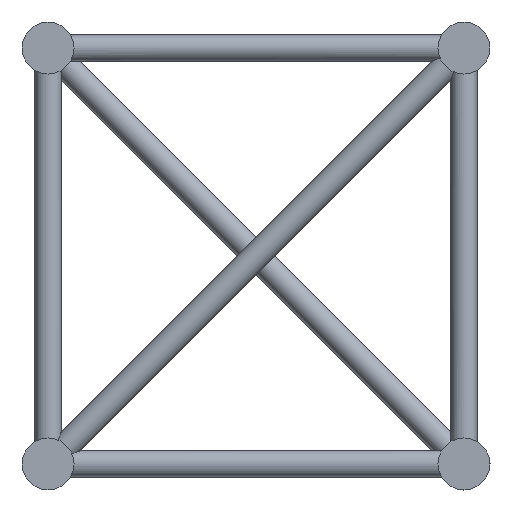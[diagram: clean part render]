
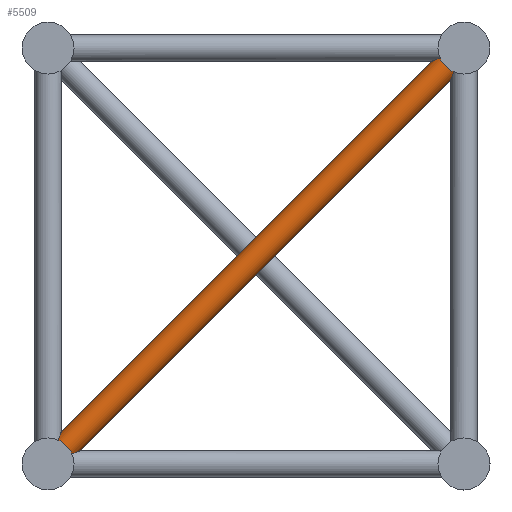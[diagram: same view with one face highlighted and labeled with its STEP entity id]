
A CAD part, left-side view. The second image highlights one B-rep face of the part: STEP entity #5509.
In plain terms, the highlighted cylindrical face has radius 15 mm (diameter 30 mm), a full revolution.
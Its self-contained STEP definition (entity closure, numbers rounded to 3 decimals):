
#154=ELLIPSE('',#6065,39.197,15.);
#155=ELLIPSE('',#6068,39.197,15.);
#156=ELLIPSE('',#6071,39.197,15.);
#157=ELLIPSE('',#6074,39.197,15.);
#411=FACE_BOUND('',#1229,.T.);
#631=CYLINDRICAL_SURFACE('',#6064,15.);
#837=FACE_OUTER_BOUND('',#1228,.T.);
#1228=EDGE_LOOP('',(#3713,#3714,#3715,#3716,#3717,#3718));
#1229=EDGE_LOOP('',(#3719,#3720,#3721,#3722,#3723,#3724));
#1716=CIRCLE('',#6066,15.);
#1717=CIRCLE('',#6067,15.);
#1718=CIRCLE('',#6069,15.);
#1719=CIRCLE('',#6070,15.);
#1720=CIRCLE('',#6072,15.);
#1721=CIRCLE('',#6073,15.);
#1722=CIRCLE('',#6075,15.);
#1723=CIRCLE('',#6076,15.);
#2325=VERTEX_POINT('',#11444);
#2326=VERTEX_POINT('',#11445);
#2327=VERTEX_POINT('',#11447);
#2328=VERTEX_POINT('',#11449);
#2329=VERTEX_POINT('',#11451);
#2330=VERTEX_POINT('',#11453);
#2331=VERTEX_POINT('',#11456);
#2332=VERTEX_POINT('',#11457);
#2333=VERTEX_POINT('',#11459);
#2334=VERTEX_POINT('',#11461);
#2335=VERTEX_POINT('',#11463);
#2336=VERTEX_POINT('',#11465);
#2897=EDGE_CURVE('',#2325,#2326,#154,.T.);
#2898=EDGE_CURVE('',#2327,#2325,#1716,.T.);
#2899=EDGE_CURVE('',#2328,#2327,#1717,.T.);
#2900=EDGE_CURVE('',#2329,#2328,#155,.T.);
#2901=EDGE_CURVE('',#2330,#2329,#1718,.T.);
#2902=EDGE_CURVE('',#2326,#2330,#1719,.T.);
#2903=EDGE_CURVE('',#2331,#2332,#156,.T.);
#2904=EDGE_CURVE('',#2333,#2331,#1720,.T.);
#2905=EDGE_CURVE('',#2334,#2333,#1721,.T.);
#2906=EDGE_CURVE('',#2335,#2334,#157,.T.);
#2907=EDGE_CURVE('',#2336,#2335,#1722,.T.);
#2908=EDGE_CURVE('',#2332,#2336,#1723,.T.);
#3713=ORIENTED_EDGE('',*,*,#2897,.F.);
#3714=ORIENTED_EDGE('',*,*,#2898,.F.);
#3715=ORIENTED_EDGE('',*,*,#2899,.F.);
#3716=ORIENTED_EDGE('',*,*,#2900,.F.);
#3717=ORIENTED_EDGE('',*,*,#2901,.F.);
#3718=ORIENTED_EDGE('',*,*,#2902,.F.);
#3719=ORIENTED_EDGE('',*,*,#2903,.F.);
#3720=ORIENTED_EDGE('',*,*,#2904,.F.);
#3721=ORIENTED_EDGE('',*,*,#2905,.F.);
#3722=ORIENTED_EDGE('',*,*,#2906,.F.);
#3723=ORIENTED_EDGE('',*,*,#2907,.F.);
#3724=ORIENTED_EDGE('',*,*,#2908,.F.);
#5509=ADVANCED_FACE('',(#837,#411),#631,.T.);
#6064=AXIS2_PLACEMENT_3D('',#11443,#7167,#7168);
#6065=AXIS2_PLACEMENT_3D('',#11446,#7169,#7170);
#6066=AXIS2_PLACEMENT_3D('',#11448,#7171,#7172);
#6067=AXIS2_PLACEMENT_3D('',#11450,#7173,#7174);
#6068=AXIS2_PLACEMENT_3D('',#11452,#7175,#7176);
#6069=AXIS2_PLACEMENT_3D('',#11454,#7177,#7178);
#6070=AXIS2_PLACEMENT_3D('',#11455,#7179,#7180);
#6071=AXIS2_PLACEMENT_3D('',#11458,#7181,#7182);
#6072=AXIS2_PLACEMENT_3D('',#11460,#7183,#7184);
#6073=AXIS2_PLACEMENT_3D('',#11462,#7185,#7186);
#6074=AXIS2_PLACEMENT_3D('',#11464,#7187,#7188);
#6075=AXIS2_PLACEMENT_3D('',#11466,#7189,#7190);
#6076=AXIS2_PLACEMENT_3D('',#11467,#7191,#7192);
#7167=DIRECTION('center_axis',(0.,-0.707,
0.707));
#7168=DIRECTION('ref_axis',(0.,-0.707,-0.707));
#7169=DIRECTION('center_axis',(0.,-0.924,-0.383));
#7170=DIRECTION('ref_axis',(0.,0.383,-0.924));
#7171=DIRECTION('center_axis',(0.,-0.707,0.707));
#7172=DIRECTION('ref_axis',(0.,-0.707,-0.707));
#7173=DIRECTION('center_axis',(0.,-0.707,0.707));
#7174=DIRECTION('ref_axis',(0.,-0.707,-0.707));
#7175=DIRECTION('center_axis',(0.,0.383,0.924));
#7176=DIRECTION('ref_axis',(0.,-0.924,0.383));
#7177=DIRECTION('center_axis',(0.,-0.707,0.707));
#7178=DIRECTION('ref_axis',(0.,-0.707,-0.707));
#7179=DIRECTION('center_axis',(0.,-0.707,0.707));
#7180=DIRECTION('ref_axis',(0.,-0.707,-0.707));
#7181=DIRECTION('center_axis',(0.,0.924,0.383));
#7182=DIRECTION('ref_axis',(0.,0.383,-0.924));
#7183=DIRECTION('center_axis',(0.,0.707,-0.707));
#7184=DIRECTION('ref_axis',(0.,-0.707,-0.707));
#7185=DIRECTION('center_axis',(0.,0.707,-0.707));
#7186=DIRECTION('ref_axis',(0.,-0.707,-0.707));
#7187=DIRECTION('center_axis',(0.,-0.383,-0.924));
#7188=DIRECTION('ref_axis',(0.,-0.924,0.383));
#7189=DIRECTION('center_axis',(0.,0.707,-0.707));
#7190=DIRECTION('ref_axis',(0.,-0.707,-0.707));
#7191=DIRECTION('center_axis',(0.,0.707,-0.707));
#7192=DIRECTION('ref_axis',(0.,-0.707,-0.707));
#11443=CARTESIAN_POINT('Origin',(95.,452.322,-452.322));
#11444=CARTESIAN_POINT('',(84.148,10.356,-25.));
#11445=CARTESIAN_POINT('',(105.852,10.356,-25.));
#11446=CARTESIAN_POINT('Origin',(95.,0.,0.));
#11447=CARTESIAN_POINT('',(80.,17.678,-17.678));
#11448=CARTESIAN_POINT('Origin',(95.,17.678,-17.678));
#11449=CARTESIAN_POINT('',(84.148,25.,-10.355));
#11450=CARTESIAN_POINT('Origin',(95.,17.678,-17.678));
#11451=CARTESIAN_POINT('',(105.852,25.,-10.355));
#11452=CARTESIAN_POINT('Origin',(95.,0.,
0.));
#11453=CARTESIAN_POINT('',(110.,17.678,-17.678));
#11454=CARTESIAN_POINT('Origin',(95.,17.678,-17.678));
#11455=CARTESIAN_POINT('Origin',(95.,17.678,-17.678));
#11456=CARTESIAN_POINT('',(84.148,459.645,-445.));
#11457=CARTESIAN_POINT('',(105.852,459.645,-445.));
#11458=CARTESIAN_POINT('Origin',(95.,470.,-470.));
#11459=CARTESIAN_POINT('',(80.,452.322,-452.322));
#11460=CARTESIAN_POINT('Origin',(95.,452.322,-452.322));
#11461=CARTESIAN_POINT('',(84.148,445.,-459.645));
#11462=CARTESIAN_POINT('Origin',(95.,452.322,-452.322));
#11463=CARTESIAN_POINT('',(105.852,445.,-459.645));
#11464=CARTESIAN_POINT('Origin',(95.,470.,-470.));
#11465=CARTESIAN_POINT('',(110.,452.322,-452.322));
#11466=CARTESIAN_POINT('Origin',(95.,452.322,-452.322));
#11467=CARTESIAN_POINT('Origin',(95.,452.322,-452.322));
